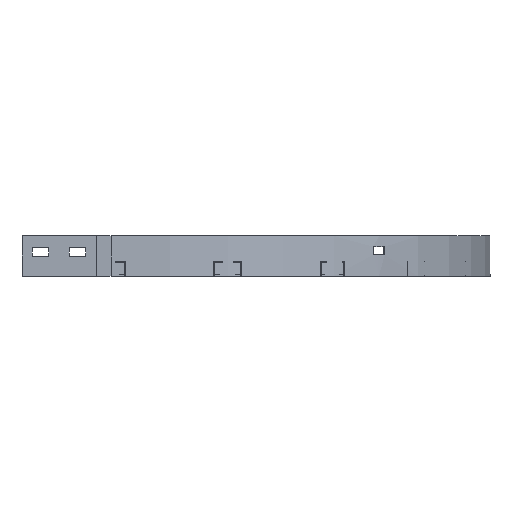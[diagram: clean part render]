
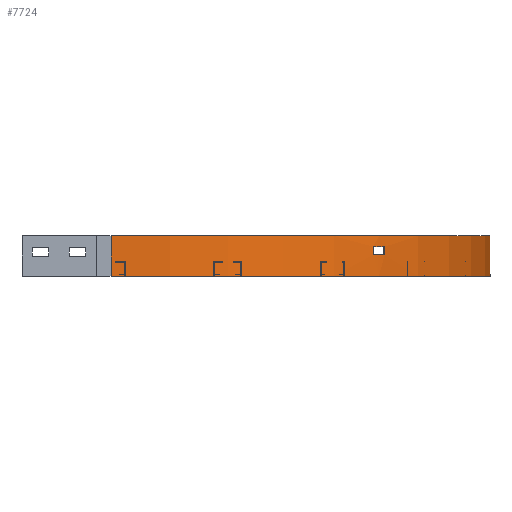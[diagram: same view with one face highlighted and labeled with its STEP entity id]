
A CAD part, front view. The second image highlights one B-rep face of the part: STEP entity #7724.
In plain terms, the highlighted cylindrical face has radius 511 mm (diameter 1022 mm), a partial arc.
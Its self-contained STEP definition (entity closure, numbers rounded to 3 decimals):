
#203=FACE_BOUND('',#1084,.T.);
#331=CYLINDRICAL_SURFACE('',#8159,511.);
#364=CIRCLE('',#8151,511.);
#369=CIRCLE('',#8158,511.);
#370=CIRCLE('',#8160,511.);
#371=CIRCLE('',#8161,511.);
#674=FACE_OUTER_BOUND('',#1083,.T.);
#1083=EDGE_LOOP('',(#5240,#5241,#5242,#5243));
#1084=EDGE_LOOP('',(#5244,#5245,#5246,#5247));
#1619=LINE('',#10837,#2455);
#1625=LINE('',#10861,#2461);
#1626=LINE('',#10866,#2462);
#1627=LINE('',#10869,#2463);
#2455=VECTOR('',#8794,304.8);
#2461=VECTOR('',#8820,304.8);
#2462=VECTOR('',#8823,304.8);
#2463=VECTOR('',#8826,304.8);
#3288=VERTEX_POINT('',#10830);
#3291=VERTEX_POINT('',#10835);
#3292=VERTEX_POINT('',#10839);
#3299=VERTEX_POINT('',#10857);
#3300=VERTEX_POINT('',#10862);
#3301=VERTEX_POINT('',#10863);
#3302=VERTEX_POINT('',#10865);
#3303=VERTEX_POINT('',#10867);
#4059=EDGE_CURVE('',#3291,#3288,#1619,.T.);
#4060=EDGE_CURVE('',#3288,#3292,#364,.T.);
#4070=EDGE_CURVE('',#3299,#3291,#369,.T.);
#4071=EDGE_CURVE('',#3292,#3299,#1625,.T.);
#4072=EDGE_CURVE('',#3300,#3301,#370,.T.);
#4073=EDGE_CURVE('',#3301,#3302,#1626,.T.);
#4074=EDGE_CURVE('',#3302,#3303,#371,.T.);
#4075=EDGE_CURVE('',#3303,#3300,#1627,.T.);
#5240=ORIENTED_EDGE('',*,*,#4059,.F.);
#5241=ORIENTED_EDGE('',*,*,#4070,.F.);
#5242=ORIENTED_EDGE('',*,*,#4071,.F.);
#5243=ORIENTED_EDGE('',*,*,#4060,.F.);
#5244=ORIENTED_EDGE('',*,*,#4072,.T.);
#5245=ORIENTED_EDGE('',*,*,#4073,.T.);
#5246=ORIENTED_EDGE('',*,*,#4074,.T.);
#5247=ORIENTED_EDGE('',*,*,#4075,.T.);
#7724=ADVANCED_FACE('',(#674,#203),#331,.T.);
#8151=AXIS2_PLACEMENT_3D('',#10840,#8797,#8798);
#8158=AXIS2_PLACEMENT_3D('',#10859,#8816,#8817);
#8159=AXIS2_PLACEMENT_3D('',#10860,#8818,#8819);
#8160=AXIS2_PLACEMENT_3D('',#10864,#8821,#8822);
#8161=AXIS2_PLACEMENT_3D('',#10868,#8824,#8825);
#8794=DIRECTION('',(0.,0.,1.));
#8797=DIRECTION('center_axis',(0.,0.,1.));
#8798=DIRECTION('ref_axis',(0.,-1.,0.));
#8816=DIRECTION('center_axis',(0.,0.,-1.));
#8817=DIRECTION('ref_axis',(0.,-1.,0.));
#8818=DIRECTION('center_axis',(0.,0.,1.));
#8819=DIRECTION('ref_axis',(0.,-1.,0.));
#8820=DIRECTION('',(0.,0.,-1.));
#8821=DIRECTION('center_axis',(0.,0.,1.));
#8822=DIRECTION('ref_axis',(0.,-1.,0.));
#8823=DIRECTION('',(0.,0.,-1.));
#8824=DIRECTION('center_axis',(0.,0.,-1.));
#8825=DIRECTION('ref_axis',(0.,-1.,0.));
#8826=DIRECTION('',(0.,0.,1.));
#10830=CARTESIAN_POINT('',(-405.5,-105.5,27.));
#10835=CARTESIAN_POINT('',(-405.5,-105.5,-27.));
#10837=CARTESIAN_POINT('',(-405.5,-105.5,-27.));
#10839=CARTESIAN_POINT('',(105.5,405.5,27.));
#10840=CARTESIAN_POINT('Origin',(-405.5,405.5,27.));
#10857=CARTESIAN_POINT('',(105.5,405.5,-27.));
#10859=CARTESIAN_POINT('Origin',(-405.5,405.5,-27.));
#10860=CARTESIAN_POINT('Origin',(-405.5,405.5,0.));
#10861=CARTESIAN_POINT('',(105.5,405.5,27.));
#10862=CARTESIAN_POINT('',(-51.981,36.522,12.5));
#10863=CARTESIAN_POINT('',(-36.426,52.08,12.5));
#10864=CARTESIAN_POINT('Origin',(-405.5,405.5,12.5));
#10865=CARTESIAN_POINT('',(-36.426,52.08,1.5));
#10866=CARTESIAN_POINT('',(-36.426,52.08,12.5));
#10867=CARTESIAN_POINT('',(-51.981,36.522,1.5));
#10868=CARTESIAN_POINT('Origin',(-405.5,405.5,1.5));
#10869=CARTESIAN_POINT('',(-51.981,36.522,1.5));
